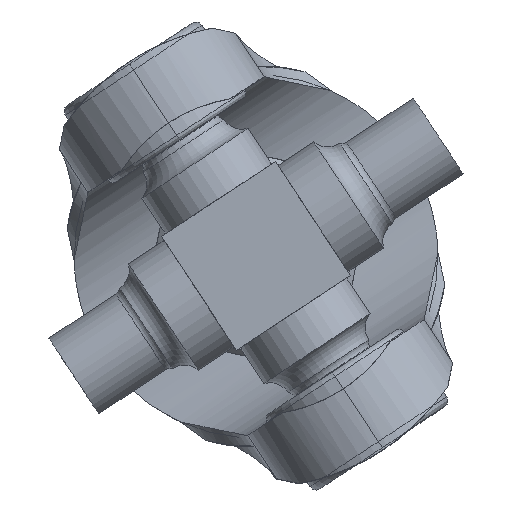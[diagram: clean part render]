
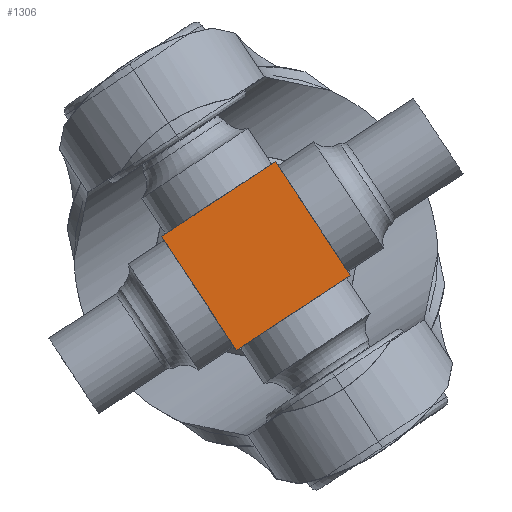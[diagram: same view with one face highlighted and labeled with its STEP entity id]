
A CAD part, top view. The second image highlights one B-rep face of the part: STEP entity #1306.
In plain terms, the highlighted planar face has unit normal (0, 0, 1).
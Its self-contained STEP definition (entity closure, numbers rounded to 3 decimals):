
#195 = LINE ( 'NONE', #2586, #217 ) ;
#217 = VECTOR ( 'NONE', #1770, 1000. ) ;
#234 = PLANE ( 'NONE',  #437 ) ;
#437 = AXIS2_PLACEMENT_3D ( 'NONE', #1834, #3897, #1593 ) ;
#545 = DIRECTION ( 'NONE',  ( 0.835, 0.55, 0. ) ) ;
#570 = VERTEX_POINT ( 'NONE', #4195 ) ;
#644 = VECTOR ( 'NONE', #545, 1000. ) ;
#721 = FACE_OUTER_BOUND ( 'NONE', #3743, .T. ) ;
#1306 = ADVANCED_FACE ( 'NONE', ( #721 ), #234, .F. ) ;
#1494 = VERTEX_POINT ( 'NONE', #3710 ) ;
#1593 = DIRECTION ( 'NONE',  ( -0.835, -0.55, 0. ) ) ;
#1661 = CARTESIAN_POINT ( 'NONE',  ( -1.07, -5.194, -196.25 ) ) ;
#1682 = ORIENTED_EDGE ( 'NONE', *, *, #3151, .F. ) ;
#1754 = ORIENTED_EDGE ( 'NONE', *, *, #4081, .T. ) ;
#1770 = DIRECTION ( 'NONE',  ( -0.55, 0.835, 0. ) ) ;
#1834 = CARTESIAN_POINT ( 'NONE',  ( -1.07, -5.194, -196.25 ) ) ;
#1860 = VECTOR ( 'NONE', #3797, 1000. ) ;
#2211 = LINE ( 'NONE', #4674, #1860 ) ;
#2312 = EDGE_CURVE ( 'NONE', #4012, #4107, #2211, .T. ) ;
#2586 = CARTESIAN_POINT ( 'NONE',  ( -1.07, -5.194, -196.25 ) ) ;
#2978 = CARTESIAN_POINT ( 'NONE',  ( -5.194, 1.07, -196.25 ) ) ;
#3149 = EDGE_CURVE ( 'NONE', #570, #1494, #195, .T. ) ;
#3151 = EDGE_CURVE ( 'NONE', #1494, #4107, #4943, .T. ) ;
#3282 = VECTOR ( 'NONE', #4556, 1000. ) ;
#3710 = CARTESIAN_POINT ( 'NONE',  ( -5.194, 1.07, -196.25 ) ) ;
#3743 = EDGE_LOOP ( 'NONE', ( #4140, #1682, #4872, #1754 ) ) ;
#3797 = DIRECTION ( 'NONE',  ( -0.55, 0.835, 0. ) ) ;
#3897 = DIRECTION ( 'NONE',  ( 0., 0., -1. ) ) ;
#3981 = CARTESIAN_POINT ( 'NONE',  ( 5.194, -1.07, -196.25 ) ) ;
#4001 = LINE ( 'NONE', #1661, #644 ) ;
#4012 = VERTEX_POINT ( 'NONE', #3981 ) ;
#4081 = EDGE_CURVE ( 'NONE', #570, #4012, #4001, .T. ) ;
#4107 = VERTEX_POINT ( 'NONE', #4865 ) ;
#4140 = ORIENTED_EDGE ( 'NONE', *, *, #2312, .T. ) ;
#4195 = CARTESIAN_POINT ( 'NONE',  ( -1.07, -5.194, -196.25 ) ) ;
#4556 = DIRECTION ( 'NONE',  ( 0.835, 0.55, 0. ) ) ;
#4674 = CARTESIAN_POINT ( 'NONE',  ( 5.194, -1.07, -196.25 ) ) ;
#4865 = CARTESIAN_POINT ( 'NONE',  ( 1.07, 5.194, -196.25 ) ) ;
#4872 = ORIENTED_EDGE ( 'NONE', *, *, #3149, .F. ) ;
#4943 = LINE ( 'NONE', #2978, #3282 ) ;
